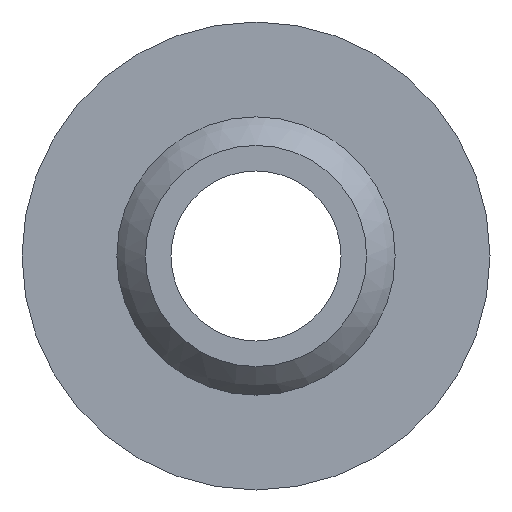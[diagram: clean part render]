
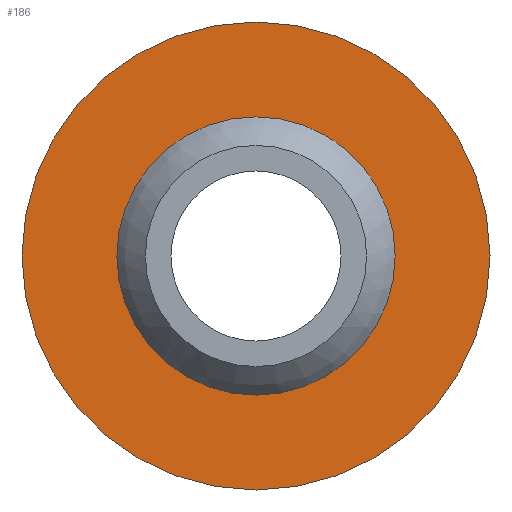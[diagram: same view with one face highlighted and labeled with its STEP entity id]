
A CAD part, left-side view. The second image highlights one B-rep face of the part: STEP entity #186.
In plain terms, the highlighted planar face has unit normal (-1, 0, 0).
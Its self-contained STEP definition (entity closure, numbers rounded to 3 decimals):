
#186 = ADVANCED_FACE( '', ( #364, #365 ), #366, .T. );
#364 = FACE_BOUND( '', #592, .T. );
#365 = FACE_OUTER_BOUND( '', #593, .T. );
#366 = PLANE( '', #594 );
#592 = EDGE_LOOP( '', ( #928 ) );
#593 = EDGE_LOOP( '', ( #929 ) );
#594 = AXIS2_PLACEMENT_3D( '', #930, #931, #932 );
#928 = ORIENTED_EDGE( '', *, *, #994, .T. );
#929 = ORIENTED_EDGE( '', *, *, #956, .F. );
#930 = CARTESIAN_POINT( '', ( -4.5, 11., 0. ) );
#931 = DIRECTION( '', ( -1., 0., 0. ) );
#932 = DIRECTION( '', ( 0., 0., 1. ) );
#956 = EDGE_CURVE( '', #1094, #1094, #1095, .T. );
#994 = EDGE_CURVE( '', #1158, #1158, #1159, .T. );
#1094 = VERTEX_POINT( '', #1298 );
#1095 = CIRCLE( '', #1299, 11. );
#1158 = VERTEX_POINT( '', #1469 );
#1159 = CIRCLE( '', #1470, 6.542 );
#1298 = CARTESIAN_POINT( '', ( -4.5, 0., -11. ) );
#1299 = AXIS2_PLACEMENT_3D( '', #1666, #1667, #1668 );
#1469 = CARTESIAN_POINT( '', ( -4.5, 0., -6.542 ) );
#1470 = AXIS2_PLACEMENT_3D( '', #1712, #1713, #1714 );
#1666 = CARTESIAN_POINT( '', ( -4.5, 0., 0. ) );
#1667 = DIRECTION( '', ( 1., 0., 0. ) );
#1668 = DIRECTION( '', ( 0., 0., -1. ) );
#1712 = CARTESIAN_POINT( '', ( -4.5, 0., 0. ) );
#1713 = DIRECTION( '', ( 1., 0., 0. ) );
#1714 = DIRECTION( '', ( 0., 0., -1. ) );
